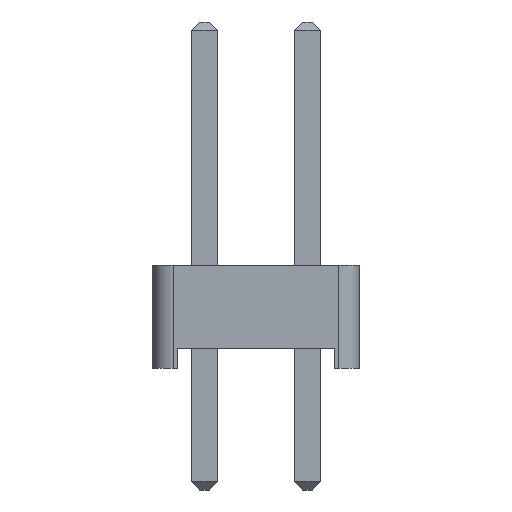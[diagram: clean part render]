
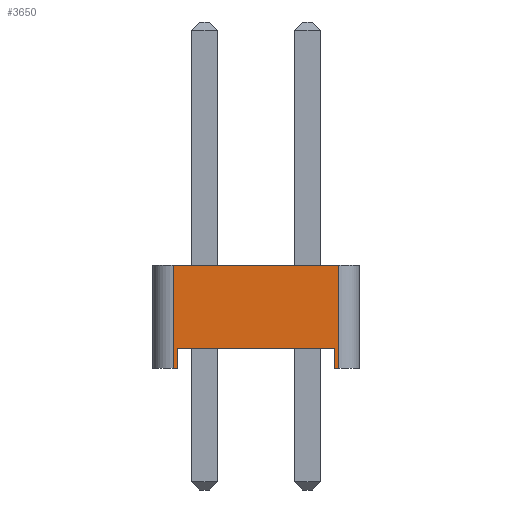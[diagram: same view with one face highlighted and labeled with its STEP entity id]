
A CAD part, left-side view. The second image highlights one B-rep face of the part: STEP entity #3650.
In plain terms, the highlighted planar face has unit normal (-1, 0, 0).
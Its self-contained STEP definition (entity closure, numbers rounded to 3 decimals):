
#3390 = VERTEX_POINT('',#3391);
#3391 = CARTESIAN_POINT('',(-1.27,2.04,0.));
#3399 = PLANE('',#3400);
#3400 = AXIS2_PLACEMENT_3D('',#3401,#3402,#3403);
#3401 = CARTESIAN_POINT('',(0.,0.,0.));
#3402 = DIRECTION('',(-0.,-0.,-1.));
#3403 = DIRECTION('',(-1.,0.,0.));
#3415 = CYLINDRICAL_SURFACE('',#3416,0.5);
#3416 = AXIS2_PLACEMENT_3D('',#3417,#3418,#3419);
#3417 = CARTESIAN_POINT('',(-0.77,2.04,0.));
#3418 = DIRECTION('',(0.,0.,1.));
#3419 = DIRECTION('',(0.,1.,0.));
#3517 = VERTEX_POINT('',#3518);
#3518 = CARTESIAN_POINT('',(-1.27,1.94,0.));
#3532 = PLANE('',#3533);
#3533 = AXIS2_PLACEMENT_3D('',#3534,#3535,#3536);
#3534 = CARTESIAN_POINT('',(1.27,1.94,0.));
#3535 = DIRECTION('',(0.,-1.,0.));
#3536 = DIRECTION('',(-1.,0.,0.));
#3544 = EDGE_CURVE('',#3517,#3390,#3545,.T.);
#3545 = SURFACE_CURVE('',#3546,(#3550,#3557),.PCURVE_S1.);
#3546 = LINE('',#3547,#3548);
#3547 = CARTESIAN_POINT('',(-1.27,-2.54,0.));
#3548 = VECTOR('',#3549,1.);
#3549 = DIRECTION('',(0.,1.,0.));
#3550 = PCURVE('',#3399,#3551);
#3551 = DEFINITIONAL_REPRESENTATION('',(#3552),#3556);
#3552 = LINE('',#3553,#3554);
#3553 = CARTESIAN_POINT('',(1.27,-2.54));
#3554 = VECTOR('',#3555,1.);
#3555 = DIRECTION('',(0.,1.));
#3556 = ( GEOMETRIC_REPRESENTATION_CONTEXT(2) 
PARAMETRIC_REPRESENTATION_CONTEXT() REPRESENTATION_CONTEXT('2D SPACE',''
  ) );
#3557 = PCURVE('',#3558,#3563);
#3558 = PLANE('',#3559);
#3559 = AXIS2_PLACEMENT_3D('',#3560,#3561,#3562);
#3560 = CARTESIAN_POINT('',(-1.27,-2.54,0.));
#3561 = DIRECTION('',(-1.,0.,0.));
#3562 = DIRECTION('',(0.,1.,0.));
#3563 = DEFINITIONAL_REPRESENTATION('',(#3564),#3568);
#3564 = LINE('',#3565,#3566);
#3565 = CARTESIAN_POINT('',(0.,0.));
#3566 = VECTOR('',#3567,1.);
#3567 = DIRECTION('',(1.,0.));
#3568 = ( GEOMETRIC_REPRESENTATION_CONTEXT(2) 
PARAMETRIC_REPRESENTATION_CONTEXT() REPRESENTATION_CONTEXT('2D SPACE',''
  ) );
#3574 = EDGE_CURVE('',#3390,#3575,#3577,.T.);
#3575 = VERTEX_POINT('',#3576);
#3576 = CARTESIAN_POINT('',(-1.27,2.04,2.54));
#3577 = SURFACE_CURVE('',#3578,(#3582,#3589),.PCURVE_S1.);
#3578 = LINE('',#3579,#3580);
#3579 = CARTESIAN_POINT('',(-1.27,2.04,0.));
#3580 = VECTOR('',#3581,1.);
#3581 = DIRECTION('',(0.,0.,1.));
#3582 = PCURVE('',#3415,#3583);
#3583 = DEFINITIONAL_REPRESENTATION('',(#3584),#3588);
#3584 = LINE('',#3585,#3586);
#3585 = CARTESIAN_POINT('',(1.571,0.));
#3586 = VECTOR('',#3587,1.);
#3587 = DIRECTION('',(0.,1.));
#3588 = ( GEOMETRIC_REPRESENTATION_CONTEXT(2) 
PARAMETRIC_REPRESENTATION_CONTEXT() REPRESENTATION_CONTEXT('2D SPACE',''
  ) );
#3589 = PCURVE('',#3558,#3590);
#3590 = DEFINITIONAL_REPRESENTATION('',(#3591),#3595);
#3591 = LINE('',#3592,#3593);
#3592 = CARTESIAN_POINT('',(4.58,0.));
#3593 = VECTOR('',#3594,1.);
#3594 = DIRECTION('',(0.,-1.));
#3595 = ( GEOMETRIC_REPRESENTATION_CONTEXT(2) 
PARAMETRIC_REPRESENTATION_CONTEXT() REPRESENTATION_CONTEXT('2D SPACE',''
  ) );
#3614 = PLANE('',#3615);
#3615 = AXIS2_PLACEMENT_3D('',#3616,#3617,#3618);
#3616 = CARTESIAN_POINT('',(0.,0.,2.54));
#3617 = DIRECTION('',(-0.,-0.,-1.));
#3618 = DIRECTION('',(-1.,0.,0.));
#3650 = ADVANCED_FACE('',(#3651),#3558,.T.);
#3651 = FACE_BOUND('',#3652,.T.);
#3652 = EDGE_LOOP('',(#3653,#3683,#3711,#3732,#3733,#3734,#3757,#3785));
#3653 = ORIENTED_EDGE('',*,*,#3654,.F.);
#3654 = EDGE_CURVE('',#3655,#3657,#3659,.T.);
#3655 = VERTEX_POINT('',#3656);
#3656 = CARTESIAN_POINT('',(-1.27,-2.04,0.));
#3657 = VERTEX_POINT('',#3658);
#3658 = CARTESIAN_POINT('',(-1.27,-1.94,0.));
#3659 = SURFACE_CURVE('',#3660,(#3664,#3671),.PCURVE_S1.);
#3660 = LINE('',#3661,#3662);
#3661 = CARTESIAN_POINT('',(-1.27,-2.54,0.));
#3662 = VECTOR('',#3663,1.);
#3663 = DIRECTION('',(0.,1.,0.));
#3664 = PCURVE('',#3558,#3665);
#3665 = DEFINITIONAL_REPRESENTATION('',(#3666),#3670);
#3666 = LINE('',#3667,#3668);
#3667 = CARTESIAN_POINT('',(0.,0.));
#3668 = VECTOR('',#3669,1.);
#3669 = DIRECTION('',(1.,0.));
#3670 = ( GEOMETRIC_REPRESENTATION_CONTEXT(2) 
PARAMETRIC_REPRESENTATION_CONTEXT() REPRESENTATION_CONTEXT('2D SPACE',''
  ) );
#3671 = PCURVE('',#3672,#3677);
#3672 = PLANE('',#3673);
#3673 = AXIS2_PLACEMENT_3D('',#3674,#3675,#3676);
#3674 = CARTESIAN_POINT('',(0.,0.,0.));
#3675 = DIRECTION('',(-0.,-0.,-1.));
#3676 = DIRECTION('',(-1.,0.,0.));
#3677 = DEFINITIONAL_REPRESENTATION('',(#3678),#3682);
#3678 = LINE('',#3679,#3680);
#3679 = CARTESIAN_POINT('',(1.27,-2.54));
#3680 = VECTOR('',#3681,1.);
#3681 = DIRECTION('',(0.,1.));
#3682 = ( GEOMETRIC_REPRESENTATION_CONTEXT(2) 
PARAMETRIC_REPRESENTATION_CONTEXT() REPRESENTATION_CONTEXT('2D SPACE',''
  ) );
#3683 = ORIENTED_EDGE('',*,*,#3684,.T.);
#3684 = EDGE_CURVE('',#3655,#3685,#3687,.T.);
#3685 = VERTEX_POINT('',#3686);
#3686 = CARTESIAN_POINT('',(-1.27,-2.04,2.54));
#3687 = SURFACE_CURVE('',#3688,(#3692,#3699),.PCURVE_S1.);
#3688 = LINE('',#3689,#3690);
#3689 = CARTESIAN_POINT('',(-1.27,-2.04,0.));
#3690 = VECTOR('',#3691,1.);
#3691 = DIRECTION('',(0.,0.,1.));
#3692 = PCURVE('',#3558,#3693);
#3693 = DEFINITIONAL_REPRESENTATION('',(#3694),#3698);
#3694 = LINE('',#3695,#3696);
#3695 = CARTESIAN_POINT('',(0.5,0.));
#3696 = VECTOR('',#3697,1.);
#3697 = DIRECTION('',(0.,-1.));
#3698 = ( GEOMETRIC_REPRESENTATION_CONTEXT(2) 
PARAMETRIC_REPRESENTATION_CONTEXT() REPRESENTATION_CONTEXT('2D SPACE',''
  ) );
#3699 = PCURVE('',#3700,#3705);
#3700 = CYLINDRICAL_SURFACE('',#3701,0.5);
#3701 = AXIS2_PLACEMENT_3D('',#3702,#3703,#3704);
#3702 = CARTESIAN_POINT('',(-0.77,-2.04,0.));
#3703 = DIRECTION('',(0.,0.,1.));
#3704 = DIRECTION('',(0.,-1.,0.));
#3705 = DEFINITIONAL_REPRESENTATION('',(#3706),#3710);
#3706 = LINE('',#3707,#3708);
#3707 = CARTESIAN_POINT('',(-1.571,0.));
#3708 = VECTOR('',#3709,1.);
#3709 = DIRECTION('',(-0.,1.));
#3710 = ( GEOMETRIC_REPRESENTATION_CONTEXT(2) 
PARAMETRIC_REPRESENTATION_CONTEXT() REPRESENTATION_CONTEXT('2D SPACE',''
  ) );
#3711 = ORIENTED_EDGE('',*,*,#3712,.T.);
#3712 = EDGE_CURVE('',#3685,#3575,#3713,.T.);
#3713 = SURFACE_CURVE('',#3714,(#3718,#3725),.PCURVE_S1.);
#3714 = LINE('',#3715,#3716);
#3715 = CARTESIAN_POINT('',(-1.27,-2.54,2.54));
#3716 = VECTOR('',#3717,1.);
#3717 = DIRECTION('',(0.,1.,0.));
#3718 = PCURVE('',#3558,#3719);
#3719 = DEFINITIONAL_REPRESENTATION('',(#3720),#3724);
#3720 = LINE('',#3721,#3722);
#3721 = CARTESIAN_POINT('',(0.,-2.54));
#3722 = VECTOR('',#3723,1.);
#3723 = DIRECTION('',(1.,0.));
#3724 = ( GEOMETRIC_REPRESENTATION_CONTEXT(2) 
PARAMETRIC_REPRESENTATION_CONTEXT() REPRESENTATION_CONTEXT('2D SPACE',''
  ) );
#3725 = PCURVE('',#3614,#3726);
#3726 = DEFINITIONAL_REPRESENTATION('',(#3727),#3731);
#3727 = LINE('',#3728,#3729);
#3728 = CARTESIAN_POINT('',(1.27,-2.54));
#3729 = VECTOR('',#3730,1.);
#3730 = DIRECTION('',(0.,1.));
#3731 = ( GEOMETRIC_REPRESENTATION_CONTEXT(2) 
PARAMETRIC_REPRESENTATION_CONTEXT() REPRESENTATION_CONTEXT('2D SPACE',''
  ) );
#3732 = ORIENTED_EDGE('',*,*,#3574,.F.);
#3733 = ORIENTED_EDGE('',*,*,#3544,.F.);
#3734 = ORIENTED_EDGE('',*,*,#3735,.T.);
#3735 = EDGE_CURVE('',#3517,#3736,#3738,.T.);
#3736 = VERTEX_POINT('',#3737);
#3737 = CARTESIAN_POINT('',(-1.27,1.94,0.5));
#3738 = SURFACE_CURVE('',#3739,(#3743,#3750),.PCURVE_S1.);
#3739 = LINE('',#3740,#3741);
#3740 = CARTESIAN_POINT('',(-1.27,1.94,0.));
#3741 = VECTOR('',#3742,1.);
#3742 = DIRECTION('',(0.,0.,1.));
#3743 = PCURVE('',#3558,#3744);
#3744 = DEFINITIONAL_REPRESENTATION('',(#3745),#3749);
#3745 = LINE('',#3746,#3747);
#3746 = CARTESIAN_POINT('',(4.48,0.));
#3747 = VECTOR('',#3748,1.);
#3748 = DIRECTION('',(0.,-1.));
#3749 = ( GEOMETRIC_REPRESENTATION_CONTEXT(2) 
PARAMETRIC_REPRESENTATION_CONTEXT() REPRESENTATION_CONTEXT('2D SPACE',''
  ) );
#3750 = PCURVE('',#3532,#3751);
#3751 = DEFINITIONAL_REPRESENTATION('',(#3752),#3756);
#3752 = LINE('',#3753,#3754);
#3753 = CARTESIAN_POINT('',(2.54,0.));
#3754 = VECTOR('',#3755,1.);
#3755 = DIRECTION('',(0.,-1.));
#3756 = ( GEOMETRIC_REPRESENTATION_CONTEXT(2) 
PARAMETRIC_REPRESENTATION_CONTEXT() REPRESENTATION_CONTEXT('2D SPACE',''
  ) );
#3757 = ORIENTED_EDGE('',*,*,#3758,.T.);
#3758 = EDGE_CURVE('',#3736,#3759,#3761,.T.);
#3759 = VERTEX_POINT('',#3760);
#3760 = CARTESIAN_POINT('',(-1.27,-1.94,0.5));
#3761 = SURFACE_CURVE('',#3762,(#3766,#3773),.PCURVE_S1.);
#3762 = LINE('',#3763,#3764);
#3763 = CARTESIAN_POINT('',(-1.27,1.94,0.5));
#3764 = VECTOR('',#3765,1.);
#3765 = DIRECTION('',(0.,-1.,0.));
#3766 = PCURVE('',#3558,#3767);
#3767 = DEFINITIONAL_REPRESENTATION('',(#3768),#3772);
#3768 = LINE('',#3769,#3770);
#3769 = CARTESIAN_POINT('',(4.48,-0.5));
#3770 = VECTOR('',#3771,1.);
#3771 = DIRECTION('',(-1.,0.));
#3772 = ( GEOMETRIC_REPRESENTATION_CONTEXT(2) 
PARAMETRIC_REPRESENTATION_CONTEXT() REPRESENTATION_CONTEXT('2D SPACE',''
  ) );
#3773 = PCURVE('',#3774,#3779);
#3774 = PLANE('',#3775);
#3775 = AXIS2_PLACEMENT_3D('',#3776,#3777,#3778);
#3776 = CARTESIAN_POINT('',(0.,0.,0.5));
#3777 = DIRECTION('',(0.,0.,1.));
#3778 = DIRECTION('',(1.,0.,0.));
#3779 = DEFINITIONAL_REPRESENTATION('',(#3780),#3784);
#3780 = LINE('',#3781,#3782);
#3781 = CARTESIAN_POINT('',(-1.27,1.94));
#3782 = VECTOR('',#3783,1.);
#3783 = DIRECTION('',(0.,-1.));
#3784 = ( GEOMETRIC_REPRESENTATION_CONTEXT(2) 
PARAMETRIC_REPRESENTATION_CONTEXT() REPRESENTATION_CONTEXT('2D SPACE',''
  ) );
#3785 = ORIENTED_EDGE('',*,*,#3786,.F.);
#3786 = EDGE_CURVE('',#3657,#3759,#3787,.T.);
#3787 = SURFACE_CURVE('',#3788,(#3792,#3799),.PCURVE_S1.);
#3788 = LINE('',#3789,#3790);
#3789 = CARTESIAN_POINT('',(-1.27,-1.94,0.));
#3790 = VECTOR('',#3791,1.);
#3791 = DIRECTION('',(0.,0.,1.));
#3792 = PCURVE('',#3558,#3793);
#3793 = DEFINITIONAL_REPRESENTATION('',(#3794),#3798);
#3794 = LINE('',#3795,#3796);
#3795 = CARTESIAN_POINT('',(0.6,0.));
#3796 = VECTOR('',#3797,1.);
#3797 = DIRECTION('',(0.,-1.));
#3798 = ( GEOMETRIC_REPRESENTATION_CONTEXT(2) 
PARAMETRIC_REPRESENTATION_CONTEXT() REPRESENTATION_CONTEXT('2D SPACE',''
  ) );
#3799 = PCURVE('',#3800,#3805);
#3800 = PLANE('',#3801);
#3801 = AXIS2_PLACEMENT_3D('',#3802,#3803,#3804);
#3802 = CARTESIAN_POINT('',(-1.27,-1.94,0.));
#3803 = DIRECTION('',(0.,1.,0.));
#3804 = DIRECTION('',(1.,0.,0.));
#3805 = DEFINITIONAL_REPRESENTATION('',(#3806),#3810);
#3806 = LINE('',#3807,#3808);
#3807 = CARTESIAN_POINT('',(0.,0.));
#3808 = VECTOR('',#3809,1.);
#3809 = DIRECTION('',(0.,-1.));
#3810 = ( GEOMETRIC_REPRESENTATION_CONTEXT(2) 
PARAMETRIC_REPRESENTATION_CONTEXT() REPRESENTATION_CONTEXT('2D SPACE',''
  ) );
